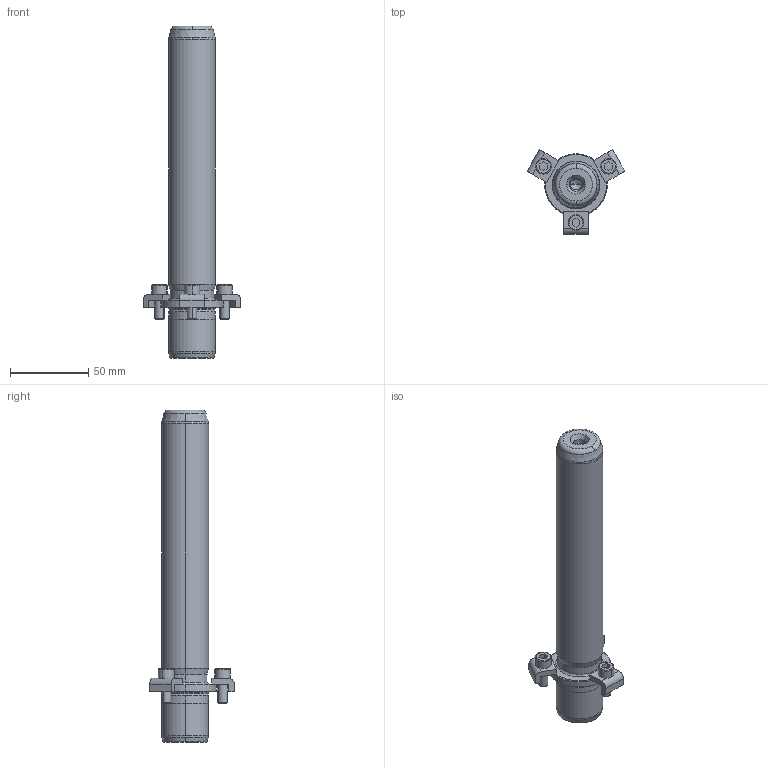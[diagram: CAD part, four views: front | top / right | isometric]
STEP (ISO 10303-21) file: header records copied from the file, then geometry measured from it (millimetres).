
FILE_DESCRIPTION((''),'2;1');
FILE_NAME('P21_030_180.stp','2008-12-23T09:56:42',(''),(''),'Mechanical Desktop 2009','Mechanical Desktop 2009',', , ');
FILE_SCHEMA(('CONFIG_CONTROL_DESIGN'));
Length unit declared in the file: millimetre
Products named in the file (2): Product; blmdl1
Assembly tree (1 placements, depth 2):
  Product
    blmdl1
Bounding box: 62.51 x 54.13 x 212 mm (x, y, z)
Volume: 153862.1 mm3; surface area: 27912.9 mm2
Topology: 7 solids, 7 shells, 163 faces, 399 edges, 257 vertices
Faces by surface type: plane 59, cylinder 44, cone 32, torus 14, bspline 14
Entity records: 5517 total; most frequent: CARTESIAN_POINT 1433, DIRECTION 908, ORIENTED_EDGE 790, EDGE_CURVE 395, AXIS2_PLACEMENT_3D 362, VERTEX_POINT 257, CIRCLE 211, VECTOR 184
